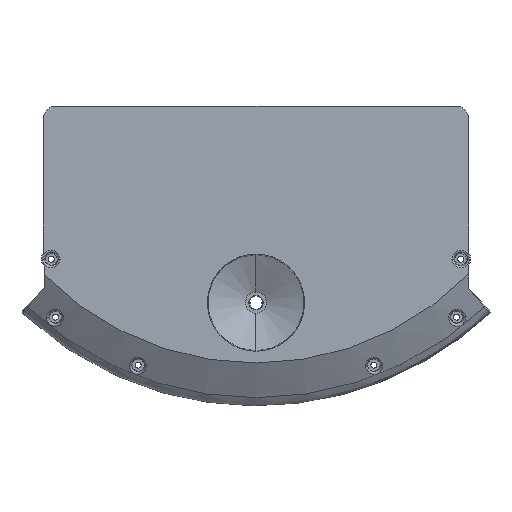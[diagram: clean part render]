
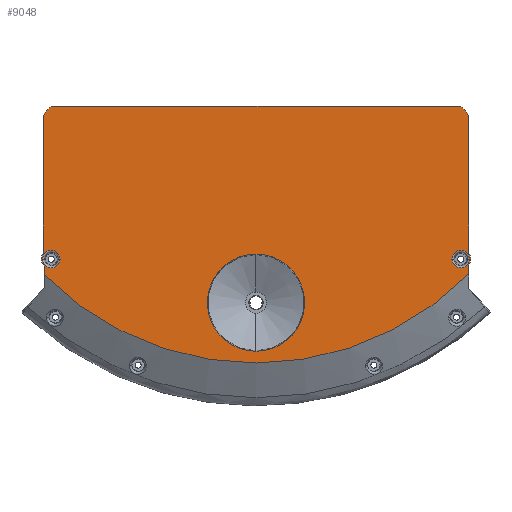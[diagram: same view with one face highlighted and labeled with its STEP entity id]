
A CAD part, front view. The second image highlights one B-rep face of the part: STEP entity #9048.
In plain terms, the highlighted planar face has unit normal (0, -1, 0).
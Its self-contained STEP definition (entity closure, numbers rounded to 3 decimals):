
#2=CARTESIAN_POINT('',(-99.,-29.,-94.));
#3=DIRECTION('',(0.,1.,0.));
#4=DIRECTION('',(1.,0.,0.));
#5=AXIS2_PLACEMENT_3D('',#2,#3,#4);
#7=CARTESIAN_POINT('',(-99.,-29.,-94.));
#8=DIRECTION('',(0.,1.,0.));
#9=DIRECTION('',(-1.,0.,0.));
#10=AXIS2_PLACEMENT_3D('',#7,#8,#9);
#12=CARTESIAN_POINT('',(99.,-29.,-94.));
#13=DIRECTION('',(0.,1.,0.));
#14=DIRECTION('',(-1.,0.,0.));
#15=AXIS2_PLACEMENT_3D('',#12,#13,#14);
#17=CARTESIAN_POINT('',(99.,-29.,-94.));
#18=DIRECTION('',(0.,1.,0.));
#19=DIRECTION('',(1.,0.,0.));
#20=AXIS2_PLACEMENT_3D('',#17,#18,#19);
#22=CARTESIAN_POINT('',(96.837,-29.,-26.));
#23=DIRECTION('',(0.,-1.,0.));
#24=DIRECTION('',(1.,0.,0.));
#25=AXIS2_PLACEMENT_3D('',#22,#23,#24);
#27=DIRECTION('',(0.,0.,-1.));
#28=VECTOR('',#27,65.055);
#29=CARTESIAN_POINT('',(102.837,-29.,-26.));
#30=LINE('',#29,#28);
#31=CARTESIAN_POINT('',(99.,-29.,-94.));
#32=DIRECTION('',(0.,-1.,0.));
#33=DIRECTION('',(0.793,0.,-0.609));
#34=AXIS2_PLACEMENT_3D('',#31,#32,#33);
#36=DIRECTION('',(0.,0.,-1.));
#37=VECTOR('',#36,4.162);
#38=CARTESIAN_POINT('',(102.837,-29.,-96.945));
#39=LINE('',#38,#37);
#40=CARTESIAN_POINT('',(0.,-29.,0.));
#41=DIRECTION('',(0.,-1.,0.));
#42=DIRECTION('',(-0.711,0.,-0.703));
#43=AXIS2_PLACEMENT_3D('',#40,#41,#42);
#45=DIRECTION('',(0.,0.,-1.));
#46=VECTOR('',#45,4.11);
#47=CARTESIAN_POINT('',(-102.5,-29.,-97.338));
#48=LINE('',#47,#46);
#49=CARTESIAN_POINT('',(-99.,-29.,-94.));
#50=DIRECTION('',(0.,1.,0.));
#51=DIRECTION('',(-0.724,0.,-0.69));
#52=AXIS2_PLACEMENT_3D('',#49,#50,#51);
#54=DIRECTION('',(0.,0.,1.));
#55=VECTOR('',#54,65.055);
#56=CARTESIAN_POINT('',(-102.837,-29.,-91.055));
#57=LINE('',#56,#55);
#58=CARTESIAN_POINT('',(-96.837,-29.,-26.));
#59=DIRECTION('',(0.,-1.,0.));
#60=DIRECTION('',(0.,0.,1.));
#61=AXIS2_PLACEMENT_3D('',#58,#59,#60);
#63=DIRECTION('',(1.,0.,0.));
#64=VECTOR('',#63,193.674);
#65=CARTESIAN_POINT('',(-96.837,-29.,-20.));
#66=LINE('',#65,#64);
#67=CARTESIAN_POINT('',(0.,-29.,-115.));
#68=DIRECTION('',(0.,-1.,0.));
#69=DIRECTION('',(0.,0.,1.));
#70=AXIS2_PLACEMENT_3D('',#67,#68,#69);
#72=CARTESIAN_POINT('',(0.,-29.,-115.));
#73=DIRECTION('',(0.,-1.,0.));
#74=DIRECTION('',(0.,0.,-1.));
#75=AXIS2_PLACEMENT_3D('',#72,#73,#74);
#975=CARTESIAN_POINT('',(102.837,-29.,-96.945));
#977=CARTESIAN_POINT('',(102.837,-29.,-91.055));
#2537=CARTESIAN_POINT('',(-102.5,-29.,-97.338));
#2556=CARTESIAN_POINT('',(-102.837,-29.,-91.055));
#7317=CARTESIAN_POINT('',(-94.779,-29.,-94.));
#7318=CARTESIAN_POINT('',(-103.221,-29.,-94.));
#7319=VERTEX_POINT('',#7317);
#7320=VERTEX_POINT('',#7318);
#7341=CARTESIAN_POINT('',(94.779,-29.,-94.));
#7342=CARTESIAN_POINT('',(103.221,-29.,-94.));
#7343=VERTEX_POINT('',#7341);
#7344=VERTEX_POINT('',#7342);
#7446=VERTEX_POINT('',#2537);
#7481=CARTESIAN_POINT('',(-102.5,-29.,-101.449));
#7482=VERTEX_POINT('',#7481);
#7485=CARTESIAN_POINT('',(102.837,-29.,-101.107));
#7486=VERTEX_POINT('',#7485);
#7488=VERTEX_POINT('',#975);
#7495=CARTESIAN_POINT('',(102.837,-29.,-26.));
#7496=CARTESIAN_POINT('',(96.837,-29.,-20.));
#7497=VERTEX_POINT('',#7495);
#7498=VERTEX_POINT('',#7496);
#7499=CARTESIAN_POINT('',(-96.837,-29.,-20.));
#7500=CARTESIAN_POINT('',(-102.837,-29.,-26.));
#7501=VERTEX_POINT('',#7499);
#7502=VERTEX_POINT('',#7500);
#7555=VERTEX_POINT('',#2556);
#7557=VERTEX_POINT('',#977);
#7715=CARTESIAN_POINT('',(0.,-29.,-91.5));
#7716=CARTESIAN_POINT('',(0.,-29.,-138.5));
#7717=VERTEX_POINT('',#7715);
#7718=VERTEX_POINT('',#7716);
#9003=CARTESIAN_POINT('',(0.,-29.,0.));
#9004=DIRECTION('',(0.,-1.,0.));
#9005=DIRECTION('',(0.,0.,-1.));
#9006=AXIS2_PLACEMENT_3D('',#9003,#9004,#9005);
#9007=PLANE('',#9006);
#9009=ORIENTED_EDGE('',*,*,#9008,.F.);
#9011=ORIENTED_EDGE('',*,*,#9010,.T.);
#9013=ORIENTED_EDGE('',*,*,#9012,.F.);
#9015=ORIENTED_EDGE('',*,*,#9014,.T.);
#9017=ORIENTED_EDGE('',*,*,#9016,.F.);
#9019=ORIENTED_EDGE('',*,*,#9018,.F.);
#9021=ORIENTED_EDGE('',*,*,#9020,.T.);
#9023=ORIENTED_EDGE('',*,*,#9022,.T.);
#9025=ORIENTED_EDGE('',*,*,#9024,.F.);
#9027=ORIENTED_EDGE('',*,*,#9026,.T.);
#9028=EDGE_LOOP('',(#9009,#9011,#9013,#9015,#9017,#9019,#9021,#9023,#9025,
#9027));
#9029=FACE_OUTER_BOUND('',#9028,.F.);
#9031=ORIENTED_EDGE('',*,*,#9030,.F.);
#9033=ORIENTED_EDGE('',*,*,#9032,.F.);
#9034=EDGE_LOOP('',(#9031,#9033));
#9035=FACE_BOUND('',#9034,.F.);
#9037=ORIENTED_EDGE('',*,*,#9036,.F.);
#9039=ORIENTED_EDGE('',*,*,#9038,.F.);
#9040=EDGE_LOOP('',(#9037,#9039));
#9041=FACE_BOUND('',#9040,.F.);
#9043=ORIENTED_EDGE('',*,*,#9042,.T.);
#9045=ORIENTED_EDGE('',*,*,#9044,.T.);
#9046=EDGE_LOOP('',(#9043,#9045));
#9047=FACE_BOUND('',#9046,.F.);
#9048=ADVANCED_FACE('',(#9029,#9035,#9041,#9047),#9007,.T.);
#6=CIRCLE('',#5,4.221);
#11=CIRCLE('',#10,4.221);
#16=CIRCLE('',#15,4.221);
#21=CIRCLE('',#20,4.221);
#26=CIRCLE('',#25,6.);
#35=CIRCLE('',#34,4.837);
#44=CIRCLE('',#43,144.215);
#53=CIRCLE('',#52,4.837);
#62=CIRCLE('',#61,6.);
#71=CIRCLE('',#70,23.5);
#76=CIRCLE('',#75,23.5);
#9008=EDGE_CURVE('',#7497,#7498,#26,.T.);
#9010=EDGE_CURVE('',#7497,#7557,#30,.T.);
#9012=EDGE_CURVE('',#7488,#7557,#35,.T.);
#9014=EDGE_CURVE('',#7488,#7486,#39,.T.);
#9016=EDGE_CURVE('',#7482,#7486,#44,.T.);
#9018=EDGE_CURVE('',#7446,#7482,#48,.T.);
#9020=EDGE_CURVE('',#7446,#7555,#53,.T.);
#9022=EDGE_CURVE('',#7555,#7502,#57,.T.);
#9024=EDGE_CURVE('',#7501,#7502,#62,.T.);
#9026=EDGE_CURVE('',#7501,#7498,#66,.T.);
#9030=EDGE_CURVE('',#7343,#7344,#16,.T.);
#9032=EDGE_CURVE('',#7344,#7343,#21,.T.);
#9036=EDGE_CURVE('',#7319,#7320,#6,.T.);
#9038=EDGE_CURVE('',#7320,#7319,#11,.T.);
#9042=EDGE_CURVE('',#7717,#7718,#71,.T.);
#9044=EDGE_CURVE('',#7718,#7717,#76,.T.);
